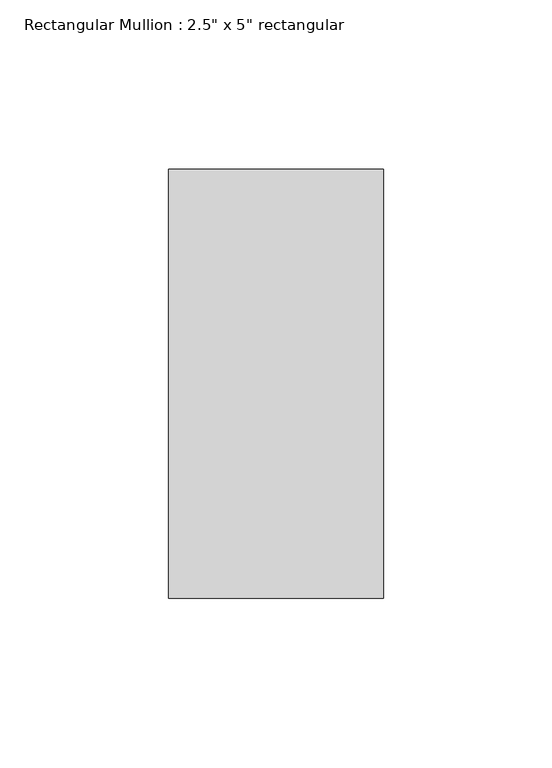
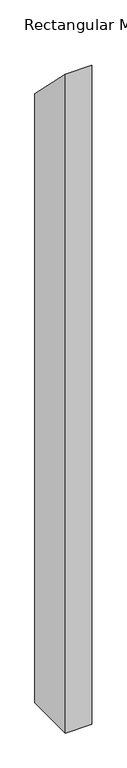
"""IFC4 building model written with IfcOpenShell, lengths in millimetres: member geometry."""

from ifc_helpers import new_model, si_unit, frame, origin, place, context, project, spatial, polyline, outline, extrude, source, transform, mapped, element, save


def member_c726c7bf(model_context):
    return source(origin(), model_context, "Body", "SweptSolid", [
        extrude(outline(polyline([(-76.2, 76.2), (50.8, -50.8), (50.8, -1597.025), (-76.2, -1597.025), (-76.2, 76.2)])), frame((-63.5, 0.0, 0.0), z_axis=(1.0, 0.0, 0.0), x_axis=(0.0, 1.0, 0.0)), (0.0, 0.0, 1.0), 63.5),
    ])


if __name__ == "__main__":
    model = new_model("IFC4")
    model_context = context("Model", 3, world=origin())
    ifc_project = project(units=[si_unit("LENGTHUNIT", "METRE", prefix="MILLI")], contexts=[model_context])
    site = spatial("IfcSite", under=ifc_project)
    building = spatial("IfcBuilding", under=site)
    placement = place(None, origin())
    member_shape = member_c726c7bf(model_context)
    element("IfcMember", 1, ObjectType="Rectangular Mullion : 2.5\" x 5\" rectangular", at=placement, inside=building, context=model_context, shape_type="MappedRepresentation", body=[
        mapped(member_shape, transform((0.0, 0.0, 0.0), x_axis=(1.0, 0.0, 0.0), y_axis=(0.0, 1.0, 0.0), z_axis=(0.0, 0.0, 1.0))),
    ])
    save(model, "model.ifc")
